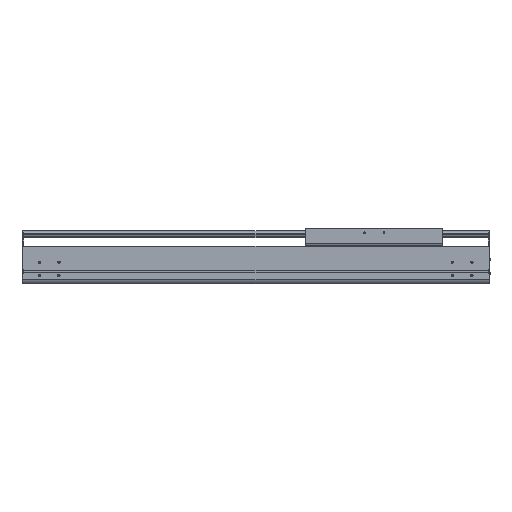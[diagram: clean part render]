
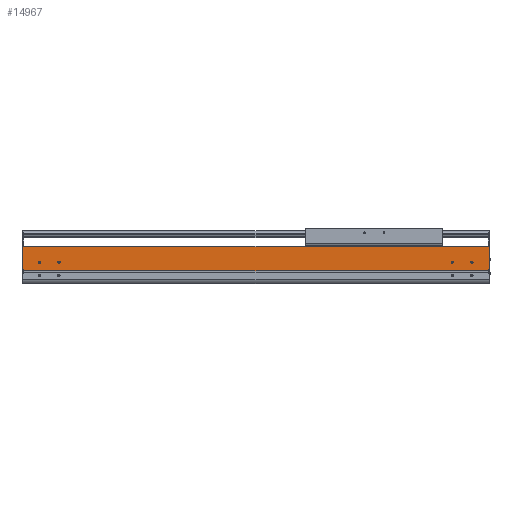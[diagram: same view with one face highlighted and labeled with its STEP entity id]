
A CAD part, top view. The second image highlights one B-rep face of the part: STEP entity #14967.
In plain terms, the highlighted planar face has unit normal (0, 0, 1).
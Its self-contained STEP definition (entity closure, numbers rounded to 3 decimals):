
#750=DIRECTION('',(1.,0.,0.));
#751=VECTOR('',#750,2.);
#752=CARTESIAN_POINT('',(-1186.,34.65,107.));
#753=LINE('',#752,#751);
#754=CARTESIAN_POINT('',(-42.,54.,107.));
#755=DIRECTION('',(0.,0.,-1.));
#756=DIRECTION('',(1.,0.,0.));
#757=AXIS2_PLACEMENT_3D('',#754,#755,#756);
#759=CARTESIAN_POINT('',(-42.,54.,107.));
#760=DIRECTION('',(0.,0.,-1.));
#761=DIRECTION('',(-1.,0.,0.));
#762=AXIS2_PLACEMENT_3D('',#759,#760,#761);
#764=CARTESIAN_POINT('',(-92.,54.,107.));
#765=DIRECTION('',(0.,0.,-1.));
#766=DIRECTION('',(1.,0.,0.));
#767=AXIS2_PLACEMENT_3D('',#764,#765,#766);
#769=CARTESIAN_POINT('',(-92.,54.,107.));
#770=DIRECTION('',(0.,0.,-1.));
#771=DIRECTION('',(-1.,0.,0.));
#772=AXIS2_PLACEMENT_3D('',#769,#770,#771);
#774=CARTESIAN_POINT('',(-1144.,54.,107.));
#775=DIRECTION('',(0.,0.,-1.));
#776=DIRECTION('',(1.,0.,0.));
#777=AXIS2_PLACEMENT_3D('',#774,#775,#776);
#779=CARTESIAN_POINT('',(-1144.,54.,107.));
#780=DIRECTION('',(0.,0.,-1.));
#781=DIRECTION('',(-1.,0.,0.));
#782=AXIS2_PLACEMENT_3D('',#779,#780,#781);
#784=CARTESIAN_POINT('',(-1094.,54.,107.));
#785=DIRECTION('',(0.,0.,-1.));
#786=DIRECTION('',(1.,0.,0.));
#787=AXIS2_PLACEMENT_3D('',#784,#785,#786);
#789=CARTESIAN_POINT('',(-1094.,54.,107.));
#790=DIRECTION('',(0.,0.,-1.));
#791=DIRECTION('',(-1.,0.,0.));
#792=AXIS2_PLACEMENT_3D('',#789,#790,#791);
#794=DIRECTION('',(0.,-1.,0.));
#795=VECTOR('',#794,2.55);
#796=CARTESIAN_POINT('',(-1184.,34.65,107.));
#797=LINE('',#796,#795);
#798=DIRECTION('',(0.,-1.,0.));
#799=VECTOR('',#798,58.85);
#800=CARTESIAN_POINT('',(-1186.,93.5,107.));
#801=LINE('',#800,#799);
#802=DIRECTION('',(0.,1.,0.));
#803=VECTOR('',#802,58.85);
#804=CARTESIAN_POINT('',(2.,34.65,107.));
#805=LINE('',#804,#803);
#806=DIRECTION('',(0.,1.,0.));
#807=VECTOR('',#806,2.55);
#808=CARTESIAN_POINT('',(0.,32.1,107.));
#809=LINE('',#808,#807);
#914=DIRECTION('',(-1.,0.,0.));
#915=VECTOR('',#914,1188.);
#916=CARTESIAN_POINT('',(2.,93.5,107.));
#917=LINE('',#916,#915);
#1766=DIRECTION('',(1.,0.,0.));
#1767=VECTOR('',#1766,2.);
#1768=CARTESIAN_POINT('',(0.,34.65,107.));
#1769=LINE('',#1768,#1767);
#10568=DIRECTION('',(1.,0.,0.));
#10569=VECTOR('',#10568,1184.);
#10570=CARTESIAN_POINT('',(-1184.,32.1,107.));
#10571=LINE('',#10570,#10569);
#11041=CARTESIAN_POINT('',(-1186.,34.65,107.));
#11042=VERTEX_POINT('',#11041);
#11043=CARTESIAN_POINT('',(-1186.,93.5,107.));
#11044=VERTEX_POINT('',#11043);
#11265=CARTESIAN_POINT('',(-1184.,32.1,107.));
#11266=VERTEX_POINT('',#11265);
#11337=CARTESIAN_POINT('',(0.,32.1,107.));
#11338=VERTEX_POINT('',#11337);
#11693=CARTESIAN_POINT('',(-39.5,54.,107.));
#11694=CARTESIAN_POINT('',(-44.5,54.,107.));
#11695=VERTEX_POINT('',#11693);
#11696=VERTEX_POINT('',#11694);
#11697=CARTESIAN_POINT('',(-89.5,54.,107.));
#11698=CARTESIAN_POINT('',(-94.5,54.,107.));
#11699=VERTEX_POINT('',#11697);
#11700=VERTEX_POINT('',#11698);
#11701=CARTESIAN_POINT('',(-1141.5,54.,107.));
#11702=CARTESIAN_POINT('',(-1146.5,54.,107.));
#11703=VERTEX_POINT('',#11701);
#11704=VERTEX_POINT('',#11702);
#11705=CARTESIAN_POINT('',(-1091.5,54.,107.));
#11706=CARTESIAN_POINT('',(-1096.5,54.,107.));
#11707=VERTEX_POINT('',#11705);
#11708=VERTEX_POINT('',#11706);
#12736=CARTESIAN_POINT('',(2.,34.65,107.));
#12737=VERTEX_POINT('',#12736);
#12738=CARTESIAN_POINT('',(2.,93.5,107.));
#12739=VERTEX_POINT('',#12738);
#12958=CARTESIAN_POINT('',(0.,34.65,107.));
#12959=VERTEX_POINT('',#12958);
#13270=CARTESIAN_POINT('',(-1184.,34.65,107.));
#13271=VERTEX_POINT('',#13270);
#14923=CARTESIAN_POINT('',(-592.,62.8,107.));
#14924=DIRECTION('',(0.,0.,1.));
#14925=DIRECTION('',(0.,-1.,0.));
#14926=AXIS2_PLACEMENT_3D('',#14923,#14924,#14925);
#14927=PLANE('',#14926);
#14928=ORIENTED_EDGE('',*,*,#14286,.F.);
#14929=ORIENTED_EDGE('',*,*,#14918,.F.);
#14930=ORIENTED_EDGE('',*,*,#14161,.F.);
#14932=ORIENTED_EDGE('',*,*,#14931,.F.);
#14934=ORIENTED_EDGE('',*,*,#14933,.F.);
#14936=ORIENTED_EDGE('',*,*,#14935,.F.);
#14938=ORIENTED_EDGE('',*,*,#14937,.F.);
#14940=ORIENTED_EDGE('',*,*,#14939,.F.);
#14941=EDGE_LOOP('',(#14928,#14929,#14930,#14932,#14934,#14936,#14938,#14940));
#14942=FACE_OUTER_BOUND('',#14941,.F.);
#14944=ORIENTED_EDGE('',*,*,#14943,.F.);
#14946=ORIENTED_EDGE('',*,*,#14945,.F.);
#14947=EDGE_LOOP('',(#14944,#14946));
#14948=FACE_BOUND('',#14947,.F.);
#14950=ORIENTED_EDGE('',*,*,#14949,.F.);
#14952=ORIENTED_EDGE('',*,*,#14951,.F.);
#14953=EDGE_LOOP('',(#14950,#14952));
#14954=FACE_BOUND('',#14953,.F.);
#14956=ORIENTED_EDGE('',*,*,#14955,.F.);
#14958=ORIENTED_EDGE('',*,*,#14957,.F.);
#14959=EDGE_LOOP('',(#14956,#14958));
#14960=FACE_BOUND('',#14959,.F.);
#14962=ORIENTED_EDGE('',*,*,#14961,.F.);
#14964=ORIENTED_EDGE('',*,*,#14963,.F.);
#14965=EDGE_LOOP('',(#14962,#14964));
#14966=FACE_BOUND('',#14965,.F.);
#14967=ADVANCED_FACE('',(#14942,#14948,#14954,#14960,#14966),#14927,.T.);
#758=CIRCLE('',#757,2.5);
#763=CIRCLE('',#762,2.5);
#768=CIRCLE('',#767,2.5);
#773=CIRCLE('',#772,2.5);
#778=CIRCLE('',#777,2.5);
#783=CIRCLE('',#782,2.5);
#788=CIRCLE('',#787,2.5);
#793=CIRCLE('',#792,2.5);
#14161=EDGE_CURVE('',#11044,#11042,#801,.T.);
#14286=EDGE_CURVE('',#13271,#11266,#797,.T.);
#14918=EDGE_CURVE('',#11042,#13271,#753,.T.);
#14931=EDGE_CURVE('',#12739,#11044,#917,.T.);
#14933=EDGE_CURVE('',#12737,#12739,#805,.T.);
#14935=EDGE_CURVE('',#12959,#12737,#1769,.T.);
#14937=EDGE_CURVE('',#11338,#12959,#809,.T.);
#14939=EDGE_CURVE('',#11266,#11338,#10571,.T.);
#14943=EDGE_CURVE('',#11699,#11700,#768,.T.);
#14945=EDGE_CURVE('',#11700,#11699,#773,.T.);
#14949=EDGE_CURVE('',#11703,#11704,#778,.T.);
#14951=EDGE_CURVE('',#11704,#11703,#783,.T.);
#14955=EDGE_CURVE('',#11707,#11708,#788,.T.);
#14957=EDGE_CURVE('',#11708,#11707,#793,.T.);
#14961=EDGE_CURVE('',#11695,#11696,#758,.T.);
#14963=EDGE_CURVE('',#11696,#11695,#763,.T.);
